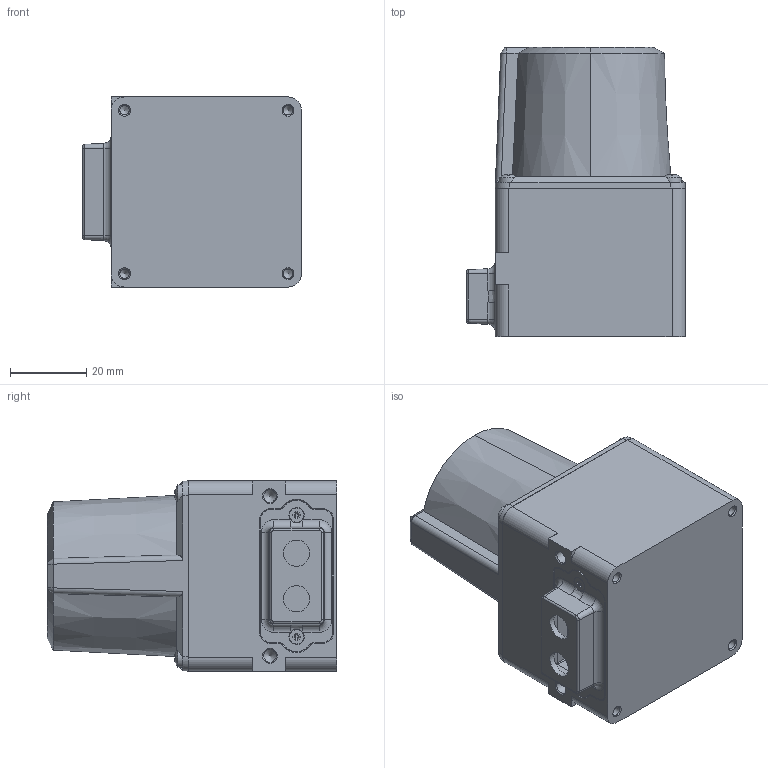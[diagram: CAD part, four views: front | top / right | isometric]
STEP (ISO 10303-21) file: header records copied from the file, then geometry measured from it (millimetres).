
FILE_DESCRIPTION(('STEP AP203'),'1');
FILE_NAME('.stp','2021-01-19T06:08:27',(' '),(' '),'Spatial InterOp 3D',' ',' ');
FILE_SCHEMA(('CONFIG_CONTROL_DESIGN'));
Length unit declared in the file: millimetre
Products named in the file (11): 单线导航底壳 ; ____; ___; 螺钉 ： 盘头 - M2.5 x 6.0; 螺钉 ： 平头 - M2.0 x 6.0
Assembly tree (10 placements, depth 3):
  (unnamed)
    单线导航底壳 
    ____
      ___
    (unnamed)
    螺钉 ： 盘头 - M2.5 x 6.0
    螺钉 ： 盘头 - M2.5 x 6.0
    螺钉 ： 盘头 - M2.5 x 6.0
    螺钉 ： 盘头 - M2.5 x 6.0
    螺钉 ： 平头 - M2.0 x 6.0
    螺钉 ： 平头 - M2.0 x 6.0
Bounding box: 57.5 x 76 x 50 mm (x, y, z)
Volume: 36084.2 mm3; surface area: 37182.9 mm2
Topology: 9 solids, 9 shells, 851 faces, 2165 edges, 1370 vertices
Faces by surface type: plane 461, cylinder 250, cone 90, torus 42, bspline 4, sphere 4
Full cylindrical faces by diameter (mm): 1.4 x2, 1.6 x3, 2 x4, 2.05 x4, 2.1 x2, 2.125 x4, 2.5 x8, 3.3 x2, 3.8 x2, 5 x4, 6.9 x2
Entity records: 26196 total; most frequent: CARTESIAN_POINT 5067, DIRECTION 4470, ORIENTED_EDGE 4122, EDGE_CURVE 2061, AXIS2_PLACEMENT_3D 1635, VERTEX_POINT 1354, LINE 1200, VECTOR 1200
